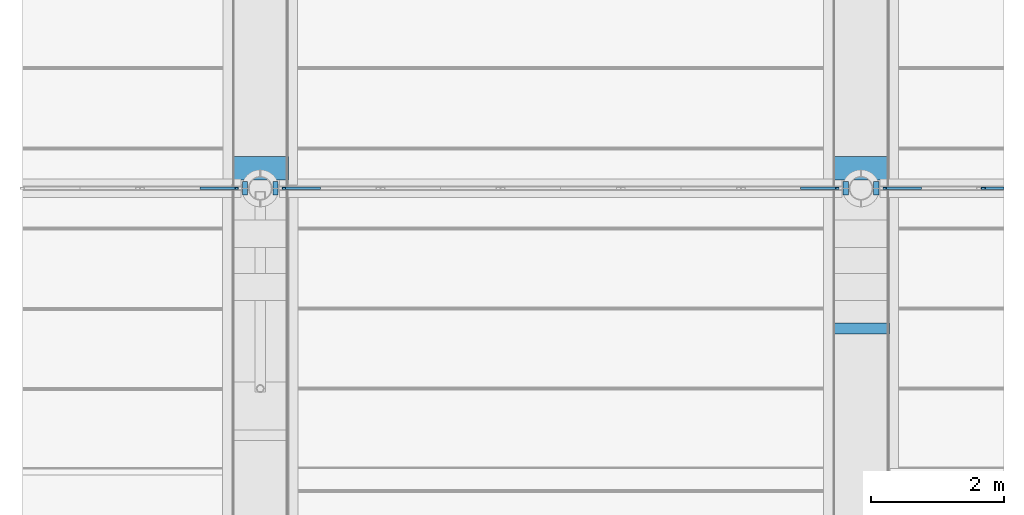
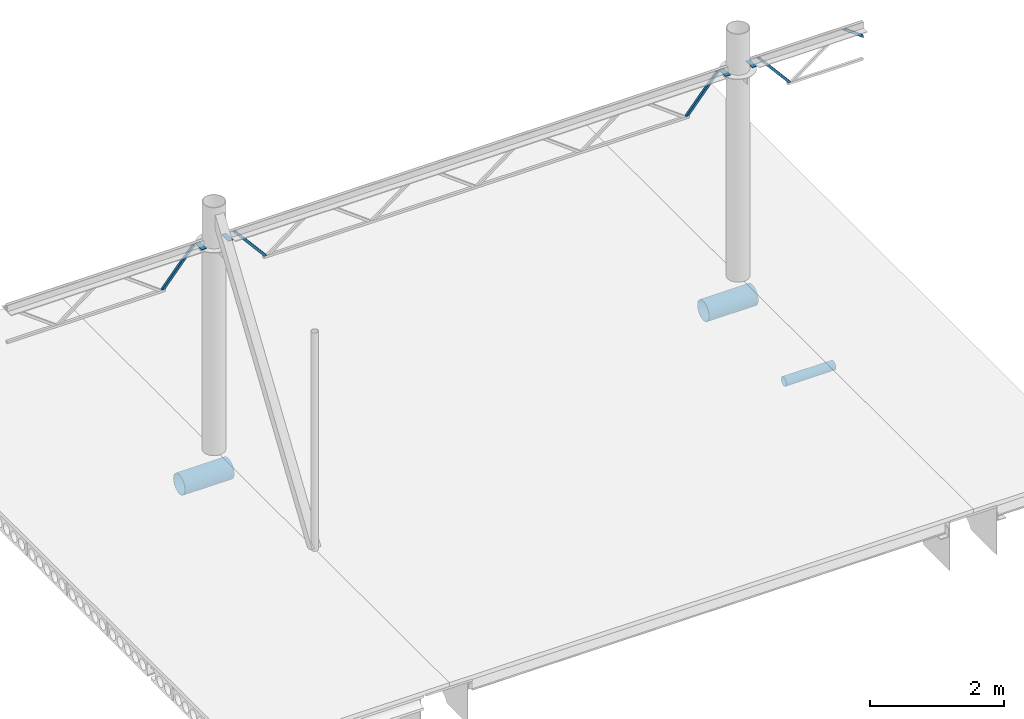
# One storey, part 13 of 21: 12 beams.
"""IFC2X3 building model written with IfcOpenShell, lengths in millimetres."""

from ifc_helpers import new_model, entity, si_unit, converted_unit, derived_unit, direction, frame, origin_with_axes, place, context, subcontext, project, spatial, faceted_brep, material, type_object, element, save


model = new_model("IFC2X3")

# Units and contexts
model_context = context("Model", 3, precision=0.01, world=frame((0.0, 4.29681676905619e-09, 0.0)), true_north=direction((4.01073788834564e-13, 1.0)))
plan_context = context("Plan", 3, precision=0.01, world=frame((0.0, 4.29681676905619e-09, 0.0)), true_north=direction((4.01073788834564e-13, 1.0)))
body_context = subcontext(model_context, "Body", "Model", "MODEL_VIEW")
ifc_project = project(units=[converted_unit("PLANEANGLEUNIT", "DEGREE", entity("IfcPositiveLengthMeasure", 0.0174532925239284), si_unit("PLANEANGLEUNIT", "RADIAN"), dimensions=[0, 0, 0, 0, 0, 0, 0]), si_unit("AREAUNIT", "SQUARE_METRE"), si_unit("LENGTHUNIT", "METRE", prefix="MILLI"), si_unit("MASSUNIT", "GRAM", prefix="KILO"), si_unit("POWERUNIT", "WATT"), si_unit("PRESSUREUNIT", "PASCAL", prefix="KILO"), si_unit("FORCEUNIT", "NEWTON", prefix="KILO"), si_unit("ELECTRICVOLTAGEUNIT", "VOLT"), si_unit("ELECTRICCURRENTUNIT", "AMPERE"), si_unit("THERMODYNAMICTEMPERATUREUNIT", "DEGREE_CELSIUS"), si_unit("TIMEUNIT", "SECOND"), si_unit("VOLUMEUNIT", "CUBIC_METRE"), derived_unit("LINEARVELOCITYUNIT", [(si_unit("LENGTHUNIT", "METRE"), 1), (si_unit("TIMEUNIT", "SECOND"), -1)]), derived_unit("VOLUMETRICFLOWRATEUNIT", [(si_unit("VOLUMEUNIT", "CUBIC_METRE"), 1), (si_unit("TIMEUNIT", "SECOND"), -1)]), derived_unit("THERMALTRANSMITTANCEUNIT", [(si_unit("POWERUNIT", "WATT"), 1), (si_unit("THERMODYNAMICTEMPERATUREUNIT", "KELVIN"), -1), (si_unit("AREAUNIT", "SQUARE_METRE"), -1)]), derived_unit("SOUNDPRESSUREUNIT", [(si_unit("PRESSUREUNIT", "PASCAL"), 1)])], contexts=[model_context, plan_context])

# Site, building, storey
site_placement = place(None, frame((0.0, -4.29681676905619e-09, 0.0), z_axis=(0.0, 0.0, 1.0), x_axis=(1.0, 0.0, 0.0)))
site = spatial("IfcSite", under=ifc_project, at=site_placement, Name="Gardermoen", CompositionType="ELEMENT")
building_placement = place(site_placement, frame((0.0, 4.29681676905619e-09, 0.0), z_axis=(0.0, 0.0, 1.0), x_axis=(1.0, 0.0, 0.0)))
building = spatial("IfcBuilding", under=site, at=building_placement, Name="TS", CompositionType="ELEMENT")
storey_placement = place(building_placement, origin_with_axes())
storey = spatial("IfcBuildingStorey", under=building, at=storey_placement, Name="F", CompositionType="ELEMENT", Elevation=0.0)

# Beams
ifc_material = material(Name="STEEL/S355")
beam_type_1 = type_object("IfcBeamType", Name="RHS40*4", PredefinedType="NOTDEFINED")
for number, where, z_axis, x_axis in (
    (1, (718332.500033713, 441499.999999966, 214725.999924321), (-0.762774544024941, 1.00000761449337e-09, -0.646664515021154), (0.646664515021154, 0.0, -0.762774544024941)),
    (2, (726668.500033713, 441499.999999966, 214725.999924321), (0.76277454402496, 1.00000761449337e-09, -0.646664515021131), (-0.646664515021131, 0.0, -0.76277454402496)),
    (3, (727332.500033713, 441499.999999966, 214725.999924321), (-0.762774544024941, 1.00000761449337e-09, -0.646664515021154), (0.646664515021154, 0.0, -0.762774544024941)),
    (4, (717668.500033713, 441499.999999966, 214725.999924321), (0.76277454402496, 1.00000761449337e-09, -0.646664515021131), (-0.646664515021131, 0.0, -0.76277454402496)),
):
    element("IfcBeam", number, at=place(storey_placement, frame(where, z_axis=z_axis, x_axis=x_axis)), inside=storey, type_object=beam_type_1, material=ifc_material, Name="STÅLBJELKE", ObjectType="RHS40*4", context=body_context, shape_type="Brep", body=[
        faceted_brep([(46.321813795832, 16.0000000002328, -16.0000000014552), (46.3218137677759, -15.9999999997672, -16.0000000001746), (859.160101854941, -15.9999999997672, -16.0000000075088), (859.160101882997, 16.0000000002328, -16.0000000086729), (19.1928742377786, -16.0000000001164, 16.0000000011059), (832.031162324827, -16.0000000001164, 15.9999999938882), (19.1928742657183, 15.9999999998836, 15.9999999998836), (832.031162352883, 15.9999999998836, 15.9999999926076), (49.712931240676, 20.0000000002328, -20.000000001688), (15.8017568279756, 19.9999999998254, 20.0000000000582), (828.640044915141, 19.9999999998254, 19.999999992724), (862.551219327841, 20.000000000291, -20.0000000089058), (15.8017567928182, -20.0000000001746, 20.0000000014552), (828.640044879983, -20.0000000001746, 19.999999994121), (49.7129312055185, -19.9999999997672, -20.000000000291), (862.551219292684, -19.999999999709, -20.0000000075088)], [[[0, 1, 2, 3]], [[1, 4, 5, 2]], [[4, 6, 7, 5]], [[6, 0, 3, 7]], [[8, 9, 10, 11]], [[9, 12, 13, 10]], [[12, 14, 15, 13]], [[14, 8, 11, 15]], [[13, 15, 11, 10], [5, 7, 3, 2]], [[14, 12, 9, 8], [6, 4, 1, 0]]]),
    ])
beam_1_placement = place(storey_placement, frame((728800.500033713, 441499.999999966, 214725.999924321), z_axis=(-0.597135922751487, 0.0, -0.802140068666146), x_axis=(0.802140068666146, 0.0, -0.597135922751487)))
element("IfcBeam", 5, at=beam_1_placement, inside=storey, type_object=beam_type_1, Name="STÅLBJELKE", ObjectType="RHS40*4", context=body_context, shape_type="Brep", body=[
    faceted_brep([(414.560487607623, 16.0, -15.9999999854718), (414.560487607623, -16.0, -15.9999999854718), (63.3368514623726, -16.0, -15.9999999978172), (63.3368514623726, 16.0, -15.9999999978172), (438.382199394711, -16.0, 16.0000000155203), (20.3508557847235, -16.0, 16.0000000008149), (438.382199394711, 16.0, 16.0000000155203), (20.3508557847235, 16.0, 16.0000000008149), (411.582773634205, 20.0, -19.9999999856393), (441.359913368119, 20.0, 20.0000000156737), (14.9776063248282, 20.0, 20.0000000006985), (68.7101009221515, 20.0, -19.9999999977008), (441.35991336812, -20.0, 20.0000000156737), (14.9776063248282, -20.0, 20.0000000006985), (411.582773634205, -20.0, -19.9999999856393), (68.7101009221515, -20.0, -19.9999999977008)], [[[0, 1, 2, 3]], [[1, 4, 5, 2]], [[4, 6, 7, 5]], [[6, 0, 3, 7]], [[8, 9, 10, 11]], [[9, 12, 13, 10]], [[12, 14, 15, 13]], [[14, 8, 11, 15]], [[11, 10, 13, 15], [3, 2, 5, 7]], [[14, 12, 9, 8], [6, 4, 1, 0]]], orient=[[False], [False], [False], [False], [False], [False], [False], [False], [False, False], [False, False]]),
])
beam_type_2 = type_object("IfcBeamType", Name="O160*3", PredefinedType="NOTDEFINED")
beam_2_placement = place(storey_placement, frame((727427.0, 439400.0, 210370.0), z_axis=(0.0, 0.0, 1.0), x_axis=(-0.999999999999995, -9.99999902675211e-08, 0.0)))
element("IfcBeam", 6, at=beam_2_placement, inside=storey, type_object=beam_type_2, material=ifc_material, Name="STÅLBJELKE", ObjectType="O160*3", context=body_context, shape_type="Brep", body=[
    faceted_brep([(0.0, -77.0, 0.0), (0.0, -74.3762886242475, 19.9290664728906), (854.0, -74.3762886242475, 19.9290664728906), (854.0, -77.0, 0.0), (0.0, -66.6839560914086, 38.5), (854.0, -66.6839560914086, 38.5), (0.0, -54.4472221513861, 54.447222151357), (854.0, -54.4472221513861, 54.447222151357), (0.0, -38.5, 66.6839560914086), (854.0, -38.5, 66.6839560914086), (0.0, -19.9290664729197, 74.3762886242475), (854.0, -19.9290664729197, 74.3762886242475), (0.0, 0.0, 77.0), (854.0, 0.0, 77.0), (0.0, 19.9290664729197, 74.3762886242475), (854.0, 19.9290664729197, 74.3762886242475), (0.0, 38.5, 66.6839560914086), (854.0, 38.5, 66.6839560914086), (0.0, 54.4472221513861, 54.447222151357), (854.0, 54.4472221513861, 54.447222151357), (0.0, 66.6839560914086, 38.5), (854.0, 66.6839560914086, 38.5), (0.0, 74.3762886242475, 19.9290664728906), (854.0, 74.3762886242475, 19.9290664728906), (0.0, 77.0, 0.0), (854.0, 77.0, 0.0), (0.0, 74.3762886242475, -19.9290664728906), (854.0, 74.3762886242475, -19.9290664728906), (0.0, 66.6839560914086, -38.5), (854.0, 66.6839560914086, -38.5), (0.0, 54.4472221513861, -54.447222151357), (854.0, 54.4472221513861, -54.447222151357), (0.0, 38.5, -66.6839560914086), (854.0, 38.5, -66.6839560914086), (0.0, 19.9290664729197, -74.3762886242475), (854.0, 19.9290664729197, -74.3762886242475), (0.0, 0.0, -77.0), (854.0, 0.0, -77.0), (0.0, -19.9290664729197, -74.3762886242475), (854.0, -19.9290664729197, -74.3762886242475), (0.0, -38.5, -66.6839560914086), (854.0, -38.5, -66.6839560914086), (0.0, -54.4472221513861, -54.447222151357), (854.0, -54.4472221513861, -54.447222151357), (0.0, -66.6839560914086, -38.5), (854.0, -66.6839560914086, -38.5), (0.0, -74.3762886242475, -19.9290664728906), (854.0, -74.3762886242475, -19.9290664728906), (0.0, -80.0, 0.0), (0.0, -77.2740661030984, -20.7055236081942), (854.0, -77.2740661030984, -20.7055236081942), (854.0, -80.0, 0.0), (0.0, -69.2820323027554, -40.0), (854.0, -69.2820323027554, -40.0), (0.0, -56.5685424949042, -56.5685424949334), (854.0, -56.5685424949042, -56.5685424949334), (0.0, -40.0, -69.2820323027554), (854.0, -40.0, -69.2820323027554), (0.0, -20.7055236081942, -77.2740661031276), (854.0, -20.7055236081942, -77.2740661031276), (0.0, 0.0, -80.0), (854.0, 0.0, -80.0), (0.0, 20.7055236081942, -77.2740661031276), (854.0, 20.7055236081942, -77.2740661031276), (0.0, 40.0, -69.2820323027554), (854.0, 40.0, -69.2820323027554), (0.0, 56.5685424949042, -56.5685424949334), (854.0, 56.5685424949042, -56.5685424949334), (0.0, 69.2820323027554, -40.0), (854.0, 69.2820323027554, -40.0), (0.0, 77.2740661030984, -20.7055236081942), (854.0, 77.2740661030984, -20.7055236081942), (0.0, 80.0, 0.0), (854.0, 80.0, 0.0), (0.0, 77.2740661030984, 20.7055236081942), (854.0, 77.2740661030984, 20.7055236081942), (0.0, 69.2820323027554, 40.0), (854.0, 69.2820323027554, 40.0), (0.0, 56.5685424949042, 56.5685424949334), (854.0, 56.5685424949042, 56.5685424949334), (0.0, 40.0, 69.2820323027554), (854.0, 40.0, 69.2820323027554), (0.0, 20.7055236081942, 77.2740661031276), (854.0, 20.7055236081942, 77.2740661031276), (0.0, 0.0, 80.0), (854.0, 0.0, 80.0), (0.0, -20.7055236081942, 77.2740661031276), (854.0, -20.7055236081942, 77.2740661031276), (0.0, -40.0, 69.2820323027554), (854.0, -40.0, 69.2820323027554), (0.0, -56.5685424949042, 56.5685424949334), (854.0, -56.5685424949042, 56.5685424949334), (0.0, -69.2820323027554, 40.0), (854.0, -69.2820323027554, 40.0), (0.0, -77.2740661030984, 20.7055236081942), (854.0, -77.2740661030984, 20.7055236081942)], [[[0, 1, 2, 3]], [[1, 4, 5, 2]], [[4, 6, 7, 5]], [[6, 8, 9, 7]], [[8, 10, 11, 9]], [[10, 12, 13, 11]], [[12, 14, 15, 13]], [[14, 16, 17, 15]], [[16, 18, 19, 17]], [[18, 20, 21, 19]], [[20, 22, 23, 21]], [[22, 24, 25, 23]], [[24, 26, 27, 25]], [[26, 28, 29, 27]], [[28, 30, 31, 29]], [[30, 32, 33, 31]], [[32, 34, 35, 33]], [[34, 36, 37, 35]], [[36, 38, 39, 37]], [[38, 40, 41, 39]], [[40, 42, 43, 41]], [[42, 44, 45, 43]], [[44, 46, 47, 45]], [[46, 0, 3, 47]], [[48, 49, 50, 51]], [[49, 52, 53, 50]], [[52, 54, 55, 53]], [[54, 56, 57, 55]], [[56, 58, 59, 57]], [[58, 60, 61, 59]], [[60, 62, 63, 61]], [[62, 64, 65, 63]], [[64, 66, 67, 65]], [[66, 68, 69, 67]], [[68, 70, 71, 69]], [[70, 72, 73, 71]], [[72, 74, 75, 73]], [[74, 76, 77, 75]], [[76, 78, 79, 77]], [[78, 80, 81, 79]], [[80, 82, 83, 81]], [[82, 84, 85, 83]], [[84, 86, 87, 85]], [[86, 88, 89, 87]], [[88, 90, 91, 89]], [[90, 92, 93, 91]], [[92, 94, 95, 93]], [[94, 48, 51, 95]], [[53, 55, 57, 59, 61, 63, 65, 67, 69, 71, 73, 75, 77, 79, 81, 83, 85, 87, 89, 91, 93, 95, 51, 50], [5, 7, 9, 11, 13, 15, 17, 19, 21, 23, 25, 27, 29, 31, 33, 35, 37, 39, 41, 43, 45, 47, 3, 2]], [[94, 92, 90, 88, 86, 84, 82, 80, 78, 76, 74, 72, 70, 68, 66, 64, 62, 60, 58, 56, 54, 52, 49, 48], [46, 44, 42, 40, 38, 36, 34, 32, 30, 28, 26, 24, 22, 20, 18, 16, 14, 12, 10, 8, 6, 4, 1, 0]]]),
])
beam_type_3 = type_object("IfcBeamType", Name="RØR355.6X6.3", PredefinedType="NOTDEFINED")
beam_3_placement = place(storey_placement, frame((727423.0, 441800.0, 210200.0), z_axis=(0.0, 0.0, 1.0), x_axis=(-0.999999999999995, -9.99999902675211e-08, 0.0)))
element("IfcBeam", 7, at=beam_3_placement, inside=storey, type_object=beam_type_3, material=ifc_material, Name="STÅLBJELKE", ObjectType="RØR355.6X6.3", context=body_context, shape_type="Brep", body=[
    faceted_brep([(0.0, -171.5, 0.0), (0.0, -168.204675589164, 33.4579902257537), (846.0, -168.204675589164, 33.4579902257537), (846.0, -171.5, 0.0), (0.0, -158.445339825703, 65.6302086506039), (846.0, -158.445339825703, 65.6302086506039), (0.0, -142.597038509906, 95.2802949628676), (846.0, -142.597038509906, 95.2802949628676), (0.0, -121.268812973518, 121.268812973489), (846.0, -121.268812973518, 121.268812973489), (0.0, -95.2802949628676, 142.597038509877), (846.0, -95.2802949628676, 142.597038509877), (0.0, -65.6302086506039, 158.445339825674), (846.0, -65.6302086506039, 158.445339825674), (0.0, -33.4579902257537, 168.204675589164), (846.0, -33.4579902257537, 168.204675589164), (0.0, 0.0, 171.5), (846.0, 0.0, 171.5), (0.0, 33.4579902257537, 168.204675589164), (846.0, 33.4579902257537, 168.204675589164), (0.0, 65.6302086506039, 158.445339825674), (846.0, 65.6302086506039, 158.445339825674), (0.0, 95.2802949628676, 142.597038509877), (846.0, 95.2802949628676, 142.597038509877), (0.0, 121.268812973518, 121.268812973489), (846.0, 121.268812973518, 121.268812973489), (0.0, 142.597038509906, 95.2802949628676), (846.0, 142.597038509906, 95.2802949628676), (0.0, 158.445339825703, 65.6302086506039), (846.0, 158.445339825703, 65.6302086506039), (0.0, 168.204675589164, 33.4579902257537), (846.0, 168.204675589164, 33.4579902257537), (0.0, 171.5, 0.0), (846.0, 171.5, 0.0), (0.0, 168.204675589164, -33.4579902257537), (846.0, 168.204675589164, -33.4579902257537), (0.0, 158.445339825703, -65.6302086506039), (846.0, 158.445339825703, -65.6302086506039), (0.0, 142.597038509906, -95.2802949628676), (846.0, 142.597038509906, -95.2802949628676), (0.0, 121.268812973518, -121.268812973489), (846.0, 121.268812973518, -121.268812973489), (0.0, 95.2802949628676, -142.597038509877), (846.0, 95.2802949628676, -142.597038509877), (0.0, 65.6302086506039, -158.445339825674), (846.0, 65.6302086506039, -158.445339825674), (0.0, 33.4579902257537, -168.204675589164), (846.0, 33.4579902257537, -168.204675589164), (0.0, 0.0, -171.5), (846.0, 0.0, -171.5), (0.0, -33.4579902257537, -168.204675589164), (846.0, -33.4579902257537, -168.204675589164), (0.0, -65.6302086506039, -158.445339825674), (846.0, -65.6302086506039, -158.445339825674), (0.0, -95.2802949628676, -142.597038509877), (846.0, -95.2802949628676, -142.597038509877), (0.0, -121.268812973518, -121.268812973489), (846.0, -121.268812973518, -121.268812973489), (0.0, -142.597038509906, -95.2802949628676), (846.0, -142.597038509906, -95.2802949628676), (0.0, -158.445339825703, -65.6302086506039), (846.0, -158.445339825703, -65.6302086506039), (0.0, -168.204675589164, -33.4579902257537), (846.0, -168.204675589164, -33.4579902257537), (0.0, -177.799999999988, 0.0), (0.0, -174.383622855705, -34.6870592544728), (846.0, -174.383622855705, -34.6870592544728), (846.0, -177.799999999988, 0.0), (0.0, -164.265780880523, -68.0411142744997), (846.0, -164.265780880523, -68.0411142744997), (0.0, -147.835297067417, -98.7803874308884), (846.0, -147.835297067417, -98.7803874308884), (0.0, -125.72358569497, -125.72358569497), (846.0, -125.72358569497, -125.72358569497), (0.0, -98.7803874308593, -147.835297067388), (846.0, -98.7803874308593, -147.835297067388), (0.0, -68.0411142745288, -164.265780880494), (846.0, -68.0411142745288, -164.265780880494), (0.0, -34.6870592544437, -174.383622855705), (846.0, -34.6870592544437, -174.383622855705), (0.0, 0.0, -177.799999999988), (846.0, 0.0, -177.799999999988), (0.0, 34.6870592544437, -174.383622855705), (846.0, 34.6870592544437, -174.383622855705), (0.0, 68.0411142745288, -164.265780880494), (846.0, 68.0411142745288, -164.265780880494), (0.0, 98.7803874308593, -147.835297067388), (846.0, 98.7803874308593, -147.835297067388), (0.0, 125.72358569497, -125.72358569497), (846.0, 125.72358569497, -125.72358569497), (0.0, 147.835297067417, -98.7803874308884), (846.0, 147.835297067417, -98.7803874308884), (0.0, 164.265780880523, -68.0411142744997), (846.0, 164.265780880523, -68.0411142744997), (0.0, 174.383622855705, -34.6870592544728), (846.0, 174.383622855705, -34.6870592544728), (0.0, 177.799999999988, 0.0), (846.0, 177.799999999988, 0.0), (0.0, 174.383622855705, 34.6870592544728), (846.0, 174.383622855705, 34.6870592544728), (0.0, 164.265780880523, 68.0411142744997), (846.0, 164.265780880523, 68.0411142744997), (0.0, 147.835297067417, 98.7803874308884), (846.0, 147.835297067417, 98.7803874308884), (0.0, 125.72358569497, 125.72358569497), (846.0, 125.72358569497, 125.72358569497), (0.0, 98.7803874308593, 147.835297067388), (846.0, 98.7803874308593, 147.835297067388), (0.0, 68.0411142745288, 164.265780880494), (846.0, 68.0411142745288, 164.265780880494), (0.0, 34.6870592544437, 174.383622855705), (846.0, 34.6870592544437, 174.383622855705), (0.0, 0.0, 177.799999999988), (846.0, 0.0, 177.799999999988), (0.0, -34.6870592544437, 174.383622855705), (846.0, -34.6870592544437, 174.383622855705), (0.0, -68.0411142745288, 164.265780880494), (846.0, -68.0411142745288, 164.265780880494), (0.0, -98.7803874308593, 147.835297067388), (846.0, -98.7803874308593, 147.835297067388), (0.0, -125.72358569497, 125.72358569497), (846.0, -125.72358569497, 125.72358569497), (0.0, -147.835297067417, 98.7803874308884), (846.0, -147.835297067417, 98.7803874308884), (0.0, -164.265780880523, 68.0411142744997), (846.0, -164.265780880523, 68.0411142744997), (0.0, -174.383622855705, 34.6870592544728), (846.0, -174.383622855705, 34.6870592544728)], [[[0, 1, 2, 3]], [[1, 4, 5, 2]], [[4, 6, 7, 5]], [[6, 8, 9, 7]], [[8, 10, 11, 9]], [[10, 12, 13, 11]], [[12, 14, 15, 13]], [[14, 16, 17, 15]], [[16, 18, 19, 17]], [[18, 20, 21, 19]], [[20, 22, 23, 21]], [[22, 24, 25, 23]], [[24, 26, 27, 25]], [[26, 28, 29, 27]], [[28, 30, 31, 29]], [[30, 32, 33, 31]], [[32, 34, 35, 33]], [[34, 36, 37, 35]], [[36, 38, 39, 37]], [[38, 40, 41, 39]], [[40, 42, 43, 41]], [[42, 44, 45, 43]], [[44, 46, 47, 45]], [[46, 48, 49, 47]], [[48, 50, 51, 49]], [[50, 52, 53, 51]], [[52, 54, 55, 53]], [[54, 56, 57, 55]], [[56, 58, 59, 57]], [[58, 60, 61, 59]], [[60, 62, 63, 61]], [[62, 0, 3, 63]], [[64, 65, 66, 67]], [[65, 68, 69, 66]], [[68, 70, 71, 69]], [[70, 72, 73, 71]], [[72, 74, 75, 73]], [[74, 76, 77, 75]], [[76, 78, 79, 77]], [[78, 80, 81, 79]], [[80, 82, 83, 81]], [[82, 84, 85, 83]], [[84, 86, 87, 85]], [[86, 88, 89, 87]], [[88, 90, 91, 89]], [[90, 92, 93, 91]], [[92, 94, 95, 93]], [[94, 96, 97, 95]], [[96, 98, 99, 97]], [[98, 100, 101, 99]], [[100, 102, 103, 101]], [[102, 104, 105, 103]], [[104, 106, 107, 105]], [[106, 108, 109, 107]], [[108, 110, 111, 109]], [[110, 112, 113, 111]], [[112, 114, 115, 113]], [[114, 116, 117, 115]], [[116, 118, 119, 117]], [[118, 120, 121, 119]], [[120, 122, 123, 121]], [[122, 124, 125, 123]], [[124, 126, 127, 125]], [[126, 64, 67, 127]], [[69, 71, 73, 75, 77, 79, 81, 83, 85, 87, 89, 91, 93, 95, 97, 99, 101, 103, 105, 107, 109, 111, 113, 115, 117, 119, 121, 123, 125, 127, 67, 66], [5, 7, 9, 11, 13, 15, 17, 19, 21, 23, 25, 27, 29, 31, 33, 35, 37, 39, 41, 43, 45, 47, 49, 51, 53, 55, 57, 59, 61, 63, 3, 2]], [[126, 124, 122, 120, 118, 116, 114, 112, 110, 108, 106, 104, 102, 100, 98, 96, 94, 92, 90, 88, 86, 84, 82, 80, 78, 76, 74, 72, 70, 68, 65, 64], [62, 60, 58, 56, 54, 52, 50, 48, 46, 44, 42, 40, 38, 36, 34, 32, 30, 28, 26, 24, 22, 20, 18, 16, 14, 12, 10, 8, 6, 4, 1, 0]]]),
])
beam_4_placement = place(storey_placement, frame((718423.0, 441800.0, 210200.0), z_axis=(0.0, 0.0, 1.0), x_axis=(-0.999999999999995, -9.99999902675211e-08, 0.0)))
element("IfcBeam", 8, at=beam_4_placement, inside=storey, type_object=beam_type_3, material=ifc_material, Name="STÅLBJELKE", ObjectType="RØR355.6X6.3", context=body_context, shape_type="Brep", body=[
    faceted_brep([(0.0, -171.5, 0.0), (0.0, -168.204675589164, 33.4579902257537), (846.0, -168.204675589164, 33.4579902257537), (846.0, -171.5, 0.0), (0.0, -158.445339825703, 65.6302086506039), (846.0, -158.445339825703, 65.6302086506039), (0.0, -142.597038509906, 95.2802949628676), (846.0, -142.597038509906, 95.2802949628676), (0.0, -121.268812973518, 121.268812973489), (846.0, -121.268812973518, 121.268812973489), (0.0, -95.2802949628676, 142.597038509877), (846.0, -95.2802949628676, 142.597038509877), (0.0, -65.6302086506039, 158.445339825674), (846.0, -65.6302086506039, 158.445339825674), (0.0, -33.4579902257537, 168.204675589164), (846.0, -33.4579902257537, 168.204675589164), (0.0, 0.0, 171.5), (846.0, 0.0, 171.5), (0.0, 33.4579902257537, 168.204675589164), (846.0, 33.4579902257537, 168.204675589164), (0.0, 65.6302086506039, 158.445339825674), (846.0, 65.6302086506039, 158.445339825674), (0.0, 95.2802949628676, 142.597038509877), (846.0, 95.2802949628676, 142.597038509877), (0.0, 121.268812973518, 121.268812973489), (846.0, 121.268812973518, 121.268812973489), (0.0, 142.597038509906, 95.2802949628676), (846.0, 142.597038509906, 95.2802949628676), (0.0, 158.445339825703, 65.6302086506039), (846.0, 158.445339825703, 65.6302086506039), (0.0, 168.204675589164, 33.4579902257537), (846.0, 168.204675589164, 33.4579902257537), (0.0, 171.5, 0.0), (846.0, 171.5, 0.0), (0.0, 168.204675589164, -33.4579902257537), (846.0, 168.204675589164, -33.4579902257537), (0.0, 158.445339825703, -65.6302086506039), (846.0, 158.445339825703, -65.6302086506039), (0.0, 142.597038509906, -95.2802949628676), (846.0, 142.597038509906, -95.2802949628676), (0.0, 121.268812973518, -121.268812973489), (846.0, 121.268812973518, -121.268812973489), (0.0, 95.2802949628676, -142.597038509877), (846.0, 95.2802949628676, -142.597038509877), (0.0, 65.6302086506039, -158.445339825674), (846.0, 65.6302086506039, -158.445339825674), (0.0, 33.4579902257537, -168.204675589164), (846.0, 33.4579902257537, -168.204675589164), (0.0, 0.0, -171.5), (846.0, 0.0, -171.5), (0.0, -33.4579902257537, -168.204675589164), (846.0, -33.4579902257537, -168.204675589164), (0.0, -65.6302086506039, -158.445339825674), (846.0, -65.6302086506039, -158.445339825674), (0.0, -95.2802949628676, -142.597038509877), (846.0, -95.2802949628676, -142.597038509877), (0.0, -121.268812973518, -121.268812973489), (846.0, -121.268812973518, -121.268812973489), (0.0, -142.597038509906, -95.2802949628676), (846.0, -142.597038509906, -95.2802949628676), (0.0, -158.445339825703, -65.6302086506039), (846.0, -158.445339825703, -65.6302086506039), (0.0, -168.204675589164, -33.4579902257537), (846.0, -168.204675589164, -33.4579902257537), (0.0, -177.799999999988, 0.0), (0.0, -174.383622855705, -34.6870592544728), (846.0, -174.383622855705, -34.6870592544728), (846.0, -177.799999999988, 0.0), (0.0, -164.265780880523, -68.0411142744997), (846.0, -164.265780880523, -68.0411142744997), (0.0, -147.835297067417, -98.7803874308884), (846.0, -147.835297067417, -98.7803874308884), (0.0, -125.72358569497, -125.72358569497), (846.0, -125.72358569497, -125.72358569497), (0.0, -98.7803874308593, -147.835297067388), (846.0, -98.7803874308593, -147.835297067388), (0.0, -68.0411142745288, -164.265780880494), (846.0, -68.0411142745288, -164.265780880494), (0.0, -34.6870592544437, -174.383622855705), (846.0, -34.6870592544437, -174.383622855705), (0.0, 0.0, -177.799999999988), (846.0, 0.0, -177.799999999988), (0.0, 34.6870592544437, -174.383622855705), (846.0, 34.6870592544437, -174.383622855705), (0.0, 68.0411142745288, -164.265780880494), (846.0, 68.0411142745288, -164.265780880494), (0.0, 98.7803874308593, -147.835297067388), (846.0, 98.7803874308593, -147.835297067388), (0.0, 125.72358569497, -125.72358569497), (846.0, 125.72358569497, -125.72358569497), (0.0, 147.835297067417, -98.7803874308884), (846.0, 147.835297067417, -98.7803874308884), (0.0, 164.265780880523, -68.0411142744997), (846.0, 164.265780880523, -68.0411142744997), (0.0, 174.383622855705, -34.6870592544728), (846.0, 174.383622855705, -34.6870592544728), (0.0, 177.799999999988, 0.0), (846.0, 177.799999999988, 0.0), (0.0, 174.383622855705, 34.6870592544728), (846.0, 174.383622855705, 34.6870592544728), (0.0, 164.265780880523, 68.0411142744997), (846.0, 164.265780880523, 68.0411142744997), (0.0, 147.835297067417, 98.7803874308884), (846.0, 147.835297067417, 98.7803874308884), (0.0, 125.72358569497, 125.72358569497), (846.0, 125.72358569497, 125.72358569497), (0.0, 98.7803874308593, 147.835297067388), (846.0, 98.7803874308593, 147.835297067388), (0.0, 68.0411142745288, 164.265780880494), (846.0, 68.0411142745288, 164.265780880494), (0.0, 34.6870592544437, 174.383622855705), (846.0, 34.6870592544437, 174.383622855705), (0.0, 0.0, 177.799999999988), (846.0, 0.0, 177.799999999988), (0.0, -34.6870592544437, 174.383622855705), (846.0, -34.6870592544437, 174.383622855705), (0.0, -68.0411142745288, 164.265780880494), (846.0, -68.0411142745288, 164.265780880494), (0.0, -98.7803874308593, 147.835297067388), (846.0, -98.7803874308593, 147.835297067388), (0.0, -125.72358569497, 125.72358569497), (846.0, -125.72358569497, 125.72358569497), (0.0, -147.835297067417, 98.7803874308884), (846.0, -147.835297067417, 98.7803874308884), (0.0, -164.265780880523, 68.0411142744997), (846.0, -164.265780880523, 68.0411142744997), (0.0, -174.383622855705, 34.6870592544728), (846.0, -174.383622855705, 34.6870592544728)], [[[0, 1, 2, 3]], [[1, 4, 5, 2]], [[4, 6, 7, 5]], [[6, 8, 9, 7]], [[8, 10, 11, 9]], [[10, 12, 13, 11]], [[12, 14, 15, 13]], [[14, 16, 17, 15]], [[16, 18, 19, 17]], [[18, 20, 21, 19]], [[20, 22, 23, 21]], [[22, 24, 25, 23]], [[24, 26, 27, 25]], [[26, 28, 29, 27]], [[28, 30, 31, 29]], [[30, 32, 33, 31]], [[32, 34, 35, 33]], [[34, 36, 37, 35]], [[36, 38, 39, 37]], [[38, 40, 41, 39]], [[40, 42, 43, 41]], [[42, 44, 45, 43]], [[44, 46, 47, 45]], [[46, 48, 49, 47]], [[48, 50, 51, 49]], [[50, 52, 53, 51]], [[52, 54, 55, 53]], [[54, 56, 57, 55]], [[56, 58, 59, 57]], [[58, 60, 61, 59]], [[60, 62, 63, 61]], [[62, 0, 3, 63]], [[64, 65, 66, 67]], [[65, 68, 69, 66]], [[68, 70, 71, 69]], [[70, 72, 73, 71]], [[72, 74, 75, 73]], [[74, 76, 77, 75]], [[76, 78, 79, 77]], [[78, 80, 81, 79]], [[80, 82, 83, 81]], [[82, 84, 85, 83]], [[84, 86, 87, 85]], [[86, 88, 89, 87]], [[88, 90, 91, 89]], [[90, 92, 93, 91]], [[92, 94, 95, 93]], [[94, 96, 97, 95]], [[96, 98, 99, 97]], [[98, 100, 101, 99]], [[100, 102, 103, 101]], [[102, 104, 105, 103]], [[104, 106, 107, 105]], [[106, 108, 109, 107]], [[108, 110, 111, 109]], [[110, 112, 113, 111]], [[112, 114, 115, 113]], [[114, 116, 117, 115]], [[116, 118, 119, 117]], [[118, 120, 121, 119]], [[120, 122, 123, 121]], [[122, 124, 125, 123]], [[124, 126, 127, 125]], [[126, 64, 67, 127]], [[69, 71, 73, 75, 77, 79, 81, 83, 85, 87, 89, 91, 93, 95, 97, 99, 101, 103, 105, 107, 109, 111, 113, 115, 117, 119, 121, 123, 125, 127, 67, 66], [5, 7, 9, 11, 13, 15, 17, 19, 21, 23, 25, 27, 29, 31, 33, 35, 37, 39, 41, 43, 45, 47, 49, 51, 53, 55, 57, 59, 61, 63, 3, 2]], [[126, 124, 122, 120, 118, 116, 114, 112, 110, 108, 106, 104, 102, 100, 98, 96, 94, 92, 90, 88, 86, 84, 82, 80, 78, 76, 74, 72, 70, 68, 65, 64], [62, 60, 58, 56, 54, 52, 50, 48, 46, 44, 42, 40, 38, 36, 34, 32, 30, 28, 26, 24, 22, 20, 18, 16, 14, 12, 10, 8, 6, 4, 1, 0]]]),
])
beam_type_4 = type_object("IfcBeamType", Name="80*10", PredefinedType="NOTDEFINED")
for number, where, z_axis, x_axis in (
    (9, (726772.500065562, 441400.002060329, 214638.000071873), (-0.999999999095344, -4.25360003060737e-05, 5.47645677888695e-19), (-4.25360001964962e-05, 0.999999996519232, 7.17790000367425e-05)),
    (10, (718227.499934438, 441400.002060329, 214638.000071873), (0.999999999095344, -4.2536000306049e-05, 5.4941791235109e-19), (4.25360001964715e-05, 0.999999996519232, 7.17790000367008e-05)),
    (11, (727227.499934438, 441400.002060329, 214638.000071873), (0.999999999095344, -4.2536000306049e-05, 5.4941791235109e-19), (4.25360001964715e-05, 0.999999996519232, 7.17790000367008e-05)),
    (12, (717772.500065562, 441400.002060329, 214638.000071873), (-0.999999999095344, -4.25360003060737e-05, 5.47645677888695e-19), (-4.25360001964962e-05, 0.999999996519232, 7.17790000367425e-05)),
):
    element("IfcBeam", number, at=place(storey_placement, frame(where, z_axis=z_axis, x_axis=x_axis)), inside=storey, type_object=beam_type_4, material=ifc_material, Name="STÅLBJELKE", ObjectType="80*10", context=body_context, shape_type="Brep", body=[
        faceted_brep([(0.0, 5.00000000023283, -39.9999999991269), (0.0, 4.99999999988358, 39.9999999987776), (200.000000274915, 4.99999999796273, 39.9999999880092), (200.000000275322, 4.99999999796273, -40.0000000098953), (0.0, -5.00000000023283, 39.9999999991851), (200.000000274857, -5.00000000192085, 39.9999999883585), (0.0, -4.99999999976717, -39.9999999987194), (200.000000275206, -5.00000000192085, -40.0000000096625)], [[[0, 1, 2, 3]], [[1, 4, 5, 2]], [[4, 6, 7, 5]], [[6, 0, 3, 7]], [[5, 7, 3, 2]], [[6, 4, 1, 0]]]),
    ])

save(model, "model.ifc")
